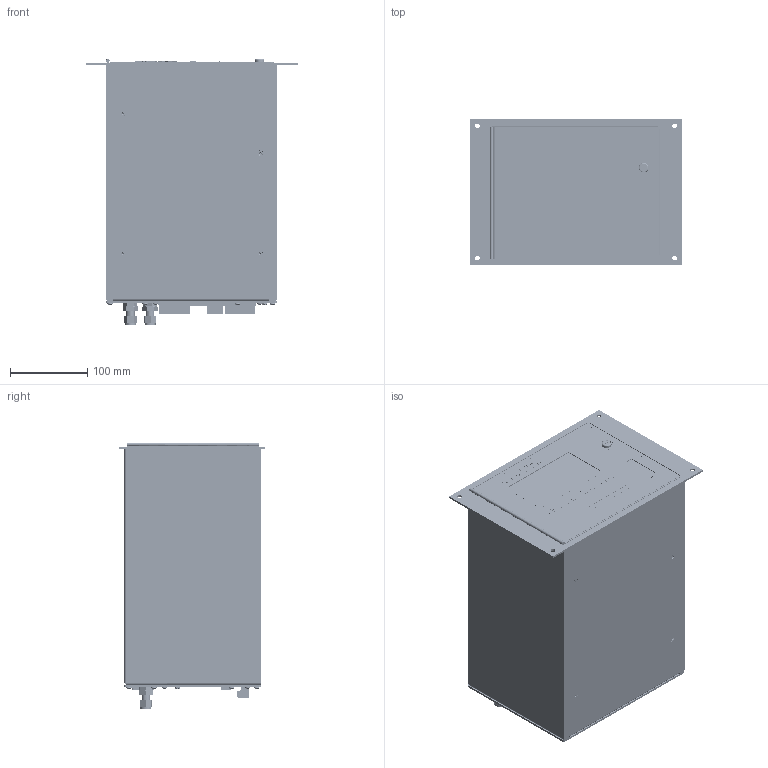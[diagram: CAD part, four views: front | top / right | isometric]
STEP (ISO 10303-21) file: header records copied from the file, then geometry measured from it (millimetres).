
FILE_DESCRIPTION (( 'STEP AP214' ), '1' );
FILE_NAME ('GPR-1600.STEP', '2025-10-17T16:20:40', ( '' ), ( '' ), 'SwSTEP 2.0', 'SolidWorks 2025', '' );
FILE_SCHEMA (( 'AUTOMOTIVE_DESIGN' ));
Length unit declared in the file: inch
Products named in the file (1): GPR-1600
Bounding box: 273.81 x 189.74 x 344.73 mm (x, y, z)
Volume: 1584709.4 mm3; surface area: 1404090.4 mm2
Topology: 458 solids, 458 shells, 18046 faces, 46756 edges, 30161 vertices
Faces by surface type: plane 8295, cylinder 4782, bspline 3187, cone 1353, torus 287, sphere 142
Entity records: 773869 total; most frequent: CARTESIAN_POINT 358054, ORIENTED_EDGE 93248, DIRECTION 72174, EDGE_CURVE 46624, VERTEX_POINT 30161, VECTOR 26550, LINE 26550, AXIS2_PLACEMENT_3D 22812
